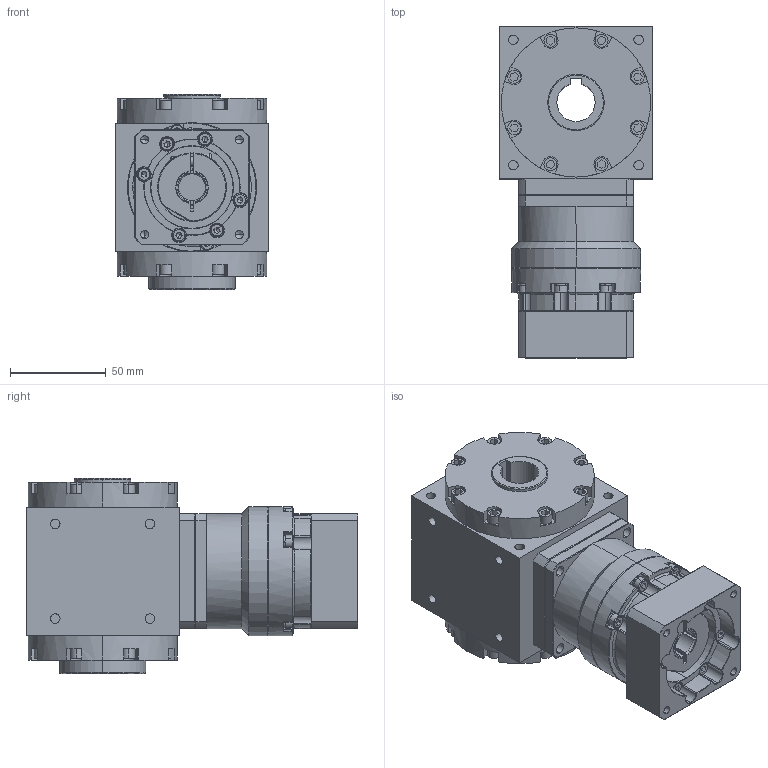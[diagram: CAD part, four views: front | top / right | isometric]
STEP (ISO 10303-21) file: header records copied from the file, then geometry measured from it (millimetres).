
FILE_DESCRIPTION (( 'STEP AP203' ), '1' );
FILE_NAME ('AAW080AS-L1-RFK 14-50-70-M5.STEP', '2024-12-24T01:23:48', ( '' ), ( '' ), 'SwSTEP 2.0', 'SolidWorks 2021', '' );
FILE_SCHEMA (( 'CONFIG_CONTROL_DESIGN' ));
Length unit declared in the file: millimetre
Products named in the file (3): AAW080AS-RFK; AAW080AS-L1-RFK 14-50-70-M5; VRB-060-L1-S2-P1 14-50-70-M5
Assembly tree (2 placements, depth 2):
  AAW080AS-L1-RFK 14-50-70-M5
    AAW080AS-RFK
    VRB-060-L1-S2-P1 14-50-70-M5
Bounding box: 80 x 173.5 x 102 mm (x, y, z)
Volume: 770087 mm3; surface area: 119994.2 mm2
Topology: 32 solids, 32 shells, 1290 faces, 3151 edges, 1987 vertices
Faces by surface type: plane 597, cylinder 439, cone 188, torus 50, bspline 16
Entity records: 38768 total; most frequent: CARTESIAN_POINT 7738, DIRECTION 6734, ORIENTED_EDGE 6206, EDGE_CURVE 3103, AXIS2_PLACEMENT_3D 2584, VERTEX_POINT 1987, LINE 1566, VECTOR 1566
